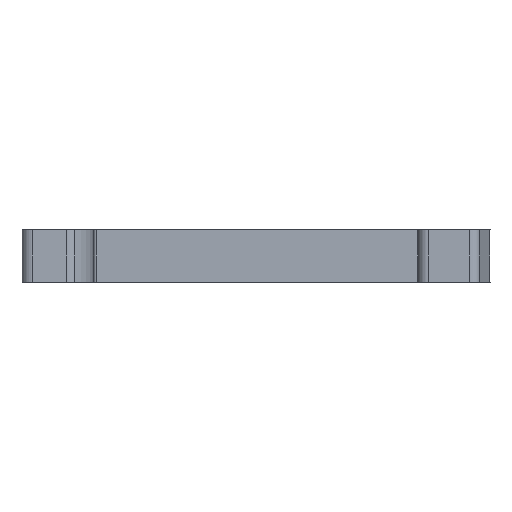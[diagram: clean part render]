
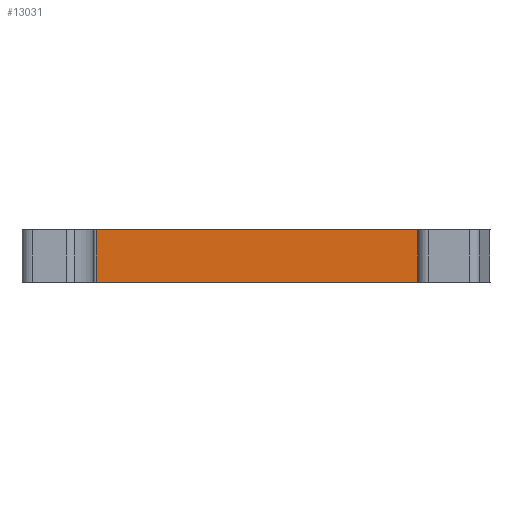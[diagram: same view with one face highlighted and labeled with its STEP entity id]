
A CAD part, front view. The second image highlights one B-rep face of the part: STEP entity #13031.
In plain terms, the highlighted planar face has unit normal (0, -1, 0).
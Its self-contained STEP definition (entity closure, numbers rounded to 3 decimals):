
#887 = ORIENTED_EDGE ( 'NONE', *, *, #24843, .T. ) ;
#4396 = LINE ( 'NONE', #18850, #22515 ) ;
#4586 = ORIENTED_EDGE ( 'NONE', *, *, #25021, .F. ) ;
#5670 = LINE ( 'NONE', #14097, #7375 ) ;
#6951 = VERTEX_POINT ( 'NONE', #21810 ) ;
#7124 = CARTESIAN_POINT ( 'NONE',  ( -4.831, -16.999, 31.803 ) ) ;
#7375 = VECTOR ( 'NONE', #14197, 1000. ) ;
#8736 = DIRECTION ( 'NONE',  ( 1., 0., 0. ) ) ;
#10245 = CARTESIAN_POINT ( 'NONE',  ( -4.831, -16.999, 31.803 ) ) ;
#10719 = FACE_OUTER_BOUND ( 'NONE', #18631, .T. ) ;
#10892 = CARTESIAN_POINT ( 'NONE',  ( -4.831, -16.999, 31.803 ) ) ;
#12311 = CARTESIAN_POINT ( 'NONE',  ( -4.831, -16.999, 31.803 ) ) ;
#12584 = VERTEX_POINT ( 'NONE', #17018 ) ;
#12775 = ORIENTED_EDGE ( 'NONE', *, *, #12930, .F. ) ;
#12930 = EDGE_CURVE ( 'NONE', #18368, #6951, #28583, .T. ) ;
#13031 = ADVANCED_FACE ( 'NONE', ( #10719 ), #27829, .F. ) ;
#14097 = CARTESIAN_POINT ( 'NONE',  ( -38.12, -16.999, 31.803 ) ) ;
#14197 = DIRECTION ( 'NONE',  ( 0., 0., -1. ) ) ;
#14697 = LINE ( 'NONE', #10892, #18204 ) ;
#15029 = VERTEX_POINT ( 'NONE', #26585 ) ;
#16796 = DIRECTION ( 'NONE',  ( -1., 0., 0. ) ) ;
#17018 = CARTESIAN_POINT ( 'NONE',  ( -38.12, -16.999, 31.803 ) ) ;
#17487 = DIRECTION ( 'NONE',  ( 1., 0., 0. ) ) ;
#18144 = EDGE_CURVE ( 'NONE', #15029, #6951, #4396, .T. ) ;
#18204 = VECTOR ( 'NONE', #8736, 1000. ) ;
#18368 = VERTEX_POINT ( 'NONE', #7124 ) ;
#18631 = EDGE_LOOP ( 'NONE', ( #4586, #887, #28011, #12775 ) ) ;
#18850 = CARTESIAN_POINT ( 'NONE',  ( -4.831, -16.999, 26.803 ) ) ;
#20637 = AXIS2_PLACEMENT_3D ( 'NONE', #12311, #27936, #16796 ) ;
#21198 = DIRECTION ( 'NONE',  ( 0., 0., -1. ) ) ;
#21810 = CARTESIAN_POINT ( 'NONE',  ( -4.831, -16.999, 26.803 ) ) ;
#21917 = VECTOR ( 'NONE', #21198, 1000. ) ;
#22515 = VECTOR ( 'NONE', #17487, 1000. ) ;
#24843 = EDGE_CURVE ( 'NONE', #12584, #15029, #5670, .T. ) ;
#25021 = EDGE_CURVE ( 'NONE', #12584, #18368, #14697, .T. ) ;
#26585 = CARTESIAN_POINT ( 'NONE',  ( -38.12, -16.999, 26.803 ) ) ;
#27829 = PLANE ( 'NONE',  #20637 ) ;
#27936 = DIRECTION ( 'NONE',  ( 0., 1., 0. ) ) ;
#28011 = ORIENTED_EDGE ( 'NONE', *, *, #18144, .T. ) ;
#28583 = LINE ( 'NONE', #10245, #21917 ) ;
